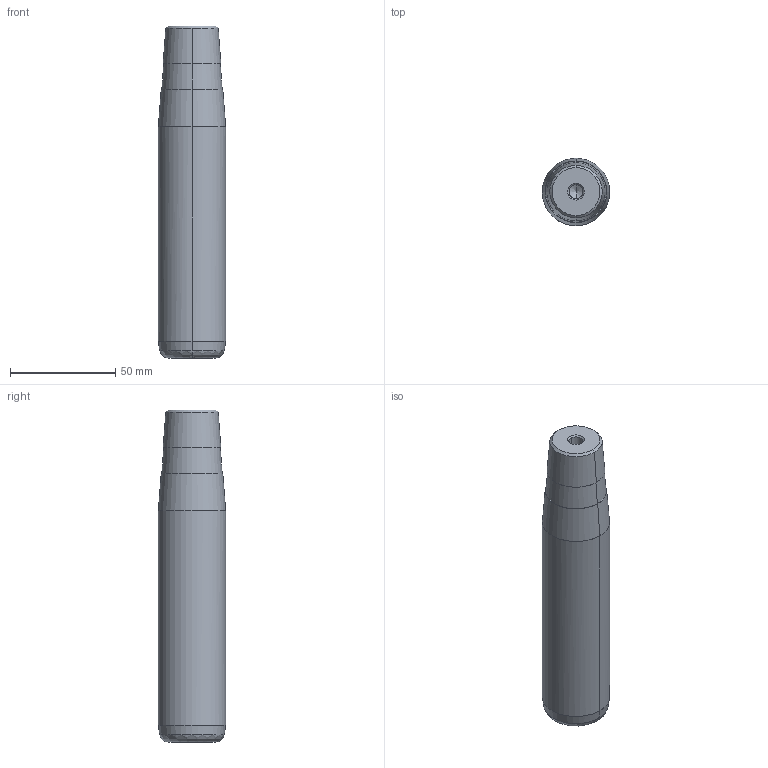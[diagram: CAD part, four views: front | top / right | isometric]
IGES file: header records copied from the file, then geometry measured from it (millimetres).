
Start section: START RECORD GO HERE.
Global section: file name: 722-32x125x158.igs; native system: DASSAULT SYSTEMES CATIA V5 R20 - www.3ds.com; preprocessor: CATIA Version 5 Release 20 ; author: Utente; organization: NB04-ASUS; date: 20210108.171329; units: millimetre
Bounding box: 32 x 32 x 158 mm (x, y, z)
Surface area: 17458.6 mm2 (no closed solid volume)
Topology: 0 solids, 0 shells, 32 faces, 192 edges, 188 vertices
Faces by surface type: revolution 30, plane 2
